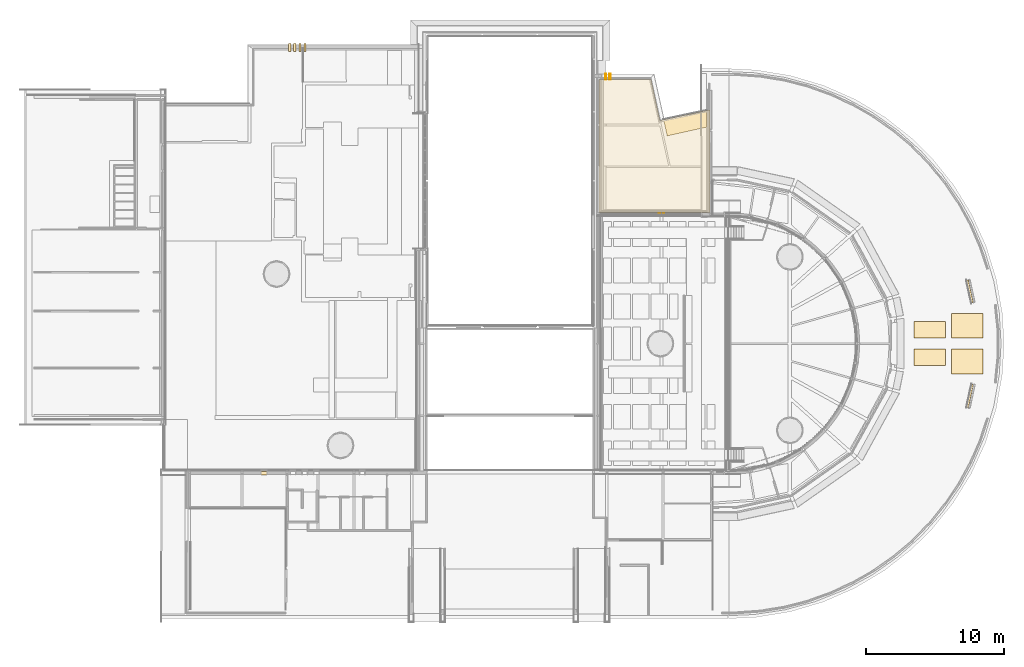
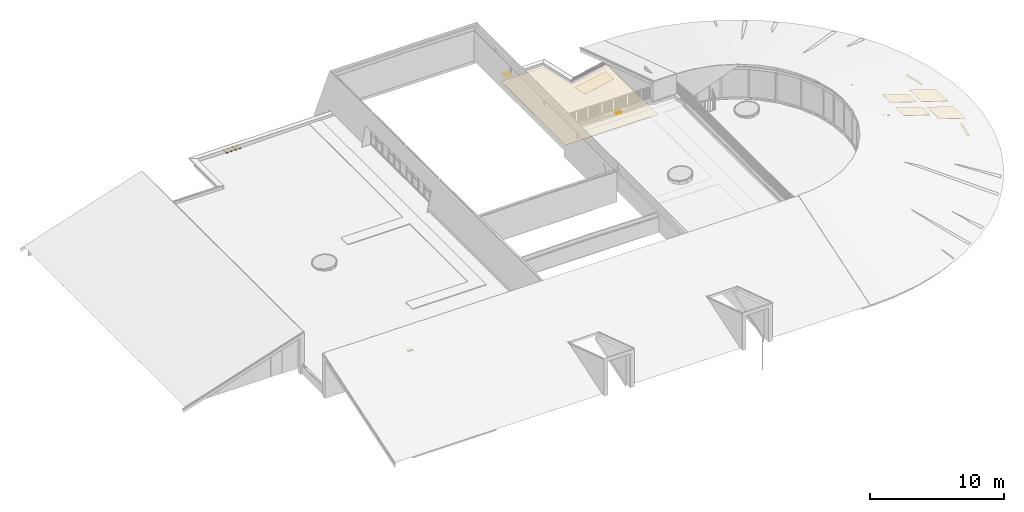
# One storey, part 60 of 66: 8 coverings, 8 openings.
"""IFC2X3 building model written with IfcOpenShell, lengths in millimetres."""

import ifcopenshell
import ifcopenshell.guid

model = None  # the IFC model being written
_history = None  # IfcOwnerHistory: only IFC2X3 demands one
_inside = {}  # id of a spatial element -> (the spatial element, [elements in it])
_under = {}  # id of a project, library or spatial element -> (it, [spatial elements below it])
_declared = {}  # id of a project -> (the project, [libraries it declares])
_typed = {}  # id of a type object -> (the type object, [elements of that type])
_made_of = {}  # id of a material, layer set ... -> (it, [elements and type objects made of it])


def new_model(schema):
    """Start an empty IFC model of exactly this schema.

    Asked for "IFC4X3", IfcOpenShell would pick the latest addendum, in which some entities
    have other attributes; the version numbers below select the first issue.
    IFC2X3 requires an IfcOwnerHistory on every rooted entity: one is made here for all.
    """
    global model, _history
    if schema == "IFC4X3":
        model = ifcopenshell.file(schema_version=(4, 3, 0, 0))
    else:
        model = ifcopenshell.file(schema=schema)
    _inside.clear()
    _under.clear()
    _declared.clear()
    _typed.clear()
    _made_of.clear()
    _history = None
    if model.schema == "IFC2X3":
        org = make("IfcOrganization", Name="unknown")
        user = make(
            "IfcPersonAndOrganization",
            ThePerson=make("IfcPerson", FamilyName="unknown"),
            TheOrganization=org,
        )
        app = make(
            "IfcApplication",
            ApplicationDeveloper=org,
            Version="unknown",
            ApplicationFullName="unknown",
            ApplicationIdentifier="unknown",
        )
        _history = make(
            "IfcOwnerHistory",
            OwningUser=user,
            OwningApplication=app,
            ChangeAction="ADDED",
            CreationDate=0,
        )
    return model


def make(cls, **values):
    """One entity of the class cls with the attributes given. An attribute that is None is left unset."""
    return model.create_entity(
        cls, **{name: value for name, value in values.items() if value is not None}
    )


def entity(cls, *values):
    """Any entity or typed value of the class cls, its attributes in the order of the schema. None: left unset."""
    e = model.create_entity(cls)
    for i, value in enumerate(values):
        if value is not None:
            e[i] = value
    return e


def rooted(cls, **values):
    """An entity with a GlobalId (a new one), such as an element, a storey or a relation."""
    return make(cls, GlobalId=ifcopenshell.guid.new(), OwnerHistory=_history, **values)


def si_unit(unit_type, name, prefix=None):
    """IfcSIUnit, for example si_unit("LENGTHUNIT", "METRE", prefix="MILLI")."""
    return make("IfcSIUnit", UnitType=unit_type, Prefix=prefix, Name=name)


def converted_unit(unit_type, name, factor, base, dimensions=None, offset=None):
    """IfcConversionBasedUnit, such as the inch: factor (a typed value) times the base unit."""
    return make(
        "IfcConversionBasedUnit"
        if offset is None
        else "IfcConversionBasedUnitWithOffset",
        ConversionOffset=offset,
        Dimensions=None
        if dimensions is None
        else entity("IfcDimensionalExponents", *dimensions),
        UnitType=unit_type,
        Name=name,
        ConversionFactor=make(
            "IfcMeasureWithUnit", ValueComponent=factor, UnitComponent=base
        ),
    )


def derived_unit(unit_type, elements):
    """IfcDerivedUnit: a product of units, each with its exponent."""
    return make(
        "IfcDerivedUnit",
        Elements=[
            make("IfcDerivedUnitElement", Unit=unit, Exponent=power)
            for unit, power in elements
        ],
        UnitType=unit_type,
    )


def assignment(units):
    """IfcUnitAssignment: the units of a project."""
    return None if units is None else make("IfcUnitAssignment", Units=units)


def point(xyz):
    """IfcCartesianPoint."""
    return None if xyz is None else make("IfcCartesianPoint", Coordinates=xyz)


def direction(xyz):
    """IfcDirection."""
    return None if xyz is None else make("IfcDirection", DirectionRatios=xyz)


def frame(location, z_axis=None, x_axis=None):
    """IfcAxis2Placement3D, a coordinate frame: its origin and axes. An axis left out is left unset."""
    return make(
        "IfcAxis2Placement3D",
        Location=point(location),
        Axis=direction(z_axis),
        RefDirection=direction(x_axis),
    )


def frame_2d(location, x_axis=None):
    """IfcAxis2Placement2D, a coordinate frame in the plane: its origin and x axis."""
    return make(
        "IfcAxis2Placement2D", Location=point(location), RefDirection=direction(x_axis)
    )


def origin():
    """The frame at (0, 0, 0) with its axes left unset."""
    return frame((0.0, 0.0, 0.0))


def place(relative_to, where):
    """IfcLocalPlacement: puts the frame where relative to a parent placement (None: the world)."""
    return make(
        "IfcLocalPlacement", PlacementRelTo=relative_to, RelativePlacement=where
    )


def context(
    kind, dimensions, precision=None, world=None, true_north=None, identifier=None
):
    """IfcGeometricRepresentationContext, for example the 3D "Model" context."""
    return make(
        "IfcGeometricRepresentationContext",
        ContextIdentifier=identifier,
        ContextType=kind,
        CoordinateSpaceDimension=dimensions,
        Precision=precision,
        WorldCoordinateSystem=world,
        TrueNorth=true_north,
    )


def subcontext(parent, identifier, kind, view, scale=None):
    """IfcGeometricRepresentationSubContext, for example "Body" below "Model"."""
    return make(
        "IfcGeometricRepresentationSubContext",
        ContextIdentifier=identifier,
        ContextType=kind,
        ParentContext=parent,
        TargetScale=scale,
        TargetView=view,
    )


def project(units=None, contexts=None):
    """IfcProject with its units and contexts."""
    return rooted(
        "IfcProject",
        Name="project",
        RepresentationContexts=contexts,
        UnitsInContext=assignment(units),
    )


def spatial(cls, under=None, at=None, **own):
    """A site, building, storey or space (cls), placed at a placement, below another one or the project."""
    s = rooted(cls, ObjectPlacement=at, **own)
    if under is not None:
        _under.setdefault(under.id(), (under, []))[1].append(s)
    return s


def polyline(points):
    """IfcPolyline through the points."""
    return make("IfcPolyline", Points=[point(p) for p in points])


def profile(cls, at=None, kind="AREA", **sizes):
    """A parametric profile (cls). Its sizes go by their IFC names, for example OverallWidth=200.0."""
    return make(cls, ProfileType=kind, Position=at, **sizes)


def rectangle(**sizes):
    """IfcRectangleProfileDef."""
    return profile("IfcRectangleProfileDef", **sizes)


def outline(outer, holes=None, kind="AREA"):
    """IfcArbitraryClosedProfileDef: a profile drawn as a closed curve; with holes, ...WithVoids."""
    if holes is None:
        return make("IfcArbitraryClosedProfileDef", ProfileType=kind, OuterCurve=outer)
    return make(
        "IfcArbitraryProfileDefWithVoids",
        ProfileType=kind,
        OuterCurve=outer,
        InnerCurves=holes,
    )


def extrude(swept, where, along, depth):
    """IfcExtrudedAreaSolid: the profile swept, set in the frame where, extruded along a direction by depth."""
    return make(
        "IfcExtrudedAreaSolid",
        SweptArea=swept,
        Position=where,
        ExtrudedDirection=direction(along),
        Depth=depth,
    )


def shape(context_of_items, identifier, shape_type, items):
    """IfcShapeRepresentation: the items that make up one representation, for example the "Body"."""
    return make(
        "IfcShapeRepresentation",
        ContextOfItems=context_of_items,
        RepresentationIdentifier=identifier,
        RepresentationType=shape_type,
        Items=items,
    )


def material(Name=None, Category=None):
    """IfcMaterial."""
    return make("IfcMaterial", Name=Name, Category=Category)


def layer(
    of_material, thickness, ventilated=None, Name=None, Category=None, Priority=None
):
    """IfcMaterialLayer: one layer of a wall or slab, of a material (None: an air gap)."""
    return make(
        "IfcMaterialLayer",
        Material=of_material,
        LayerThickness=thickness,
        IsVentilated=ventilated,
        Name=Name,
        Category=Category,
        Priority=Priority,
    )


def layer_set(layers, Name=None):
    """IfcMaterialLayerSet."""
    return make("IfcMaterialLayerSet", MaterialLayers=layers, LayerSetName=Name)


def layer_usage(for_layer_set, set_direction, sense, offset, extent=None):
    """IfcMaterialLayerSetUsage: how a layer set lies in its element."""
    return make(
        "IfcMaterialLayerSetUsage",
        ForLayerSet=for_layer_set,
        LayerSetDirection=set_direction,
        DirectionSense=sense,
        OffsetFromReferenceLine=offset,
        ReferenceExtent=extent,
    )


def made_of(thing, what):
    """Note that an element or type object is made of a material, layer set ...; save() writes the relation."""
    if what is not None:
        _made_of.setdefault(what.id(), (what, []))[1].append(thing)
    return thing


def type_object(cls, material=None, **own):
    """A type object (cls), such as IfcWallType, which elements share."""
    return made_of(rooted(cls, **own), material)


def element(
    cls,
    number,
    at=None,
    inside=None,
    cuts=None,
    type_object=None,
    material=None,
    context=None,
    identifier="Body",
    shape_type=None,
    held_by="IfcProductDefinitionShape",
    body=None,
    shapes=None,
    **own,
):
    """One element of the class cls, such as IfcWall. Its Tag is "e" and its number.

    at: its placement. inside: the storey or other place that contains it. cuts: it is an
    opening in that element (IfcRelVoidsElement). A single representation is given by context,
    identifier, shape_type and body (its items); several are given by shapes. held_by: the class
    of the entity that holds the representations. save() writes the other relations.
    """
    e = rooted(cls, Tag="e%d" % number, ObjectPlacement=at, **own)
    if body is not None:
        shapes = [shape(context, identifier, shape_type, body)]
    if shapes is not None:
        e.Representation = make(held_by, Representations=shapes)
    if inside is not None:
        _inside.setdefault(inside.id(), (inside, []))[1].append(e)
    if cuts is not None:
        rooted(
            "IfcRelVoidsElement", RelatingBuildingElement=cuts, RelatedOpeningElement=e
        )
    if type_object is not None:
        _typed.setdefault(type_object.id(), (type_object, []))[1].append(e)
    return made_of(e, material)


def aggregate(whole, parts):
    """IfcRelAggregates: a whole, such as a stair, and the parts it consists of."""
    return rooted("IfcRelAggregates", RelatingObject=whole, RelatedObjects=parts)


def save(model, path):
    """Write the relations noted so far, then the file.

    IfcRelAggregates (storeys below a building ...), IfcRelContainedInSpatialStructure (elements
    in a storey), IfcRelDefinesByType, IfcRelAssociatesMaterial and IfcRelDeclares: one each for
    every whole, place, type object, material and project.
    """
    for whole, parts in _under.values():
        aggregate(whole, parts)
    for where, things in _inside.values():
        rooted(
            "IfcRelContainedInSpatialStructure",
            RelatedElements=things,
            RelatingStructure=where,
        )
    for kind, things in _typed.values():
        rooted("IfcRelDefinesByType", RelatedObjects=things, RelatingType=kind)
    for what, things in _made_of.values():
        rooted("IfcRelAssociatesMaterial", RelatedObjects=things, RelatingMaterial=what)
    for by, libraries in _declared.values():
        rooted("IfcRelDeclares", RelatingContext=by, RelatedDefinitions=libraries)
    model.write(path)


model = new_model("IFC2X3")

# Units and contexts
model_context = context("Model", 3, precision=0.01, world=origin(), true_north=direction((6.12303176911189e-17, 1.0)))
body_context = subcontext(model_context, "Body", "Model", "MODEL_VIEW")
ifc_project = project(units=[si_unit("LENGTHUNIT", "METRE", prefix="MILLI"), si_unit("AREAUNIT", "SQUARE_METRE"), si_unit("VOLUMEUNIT", "CUBIC_METRE"), converted_unit("PLANEANGLEUNIT", "DEGREE", entity("IfcRatioMeasure", 0.0174532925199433), si_unit("PLANEANGLEUNIT", "RADIAN"), dimensions=[0, 0, 0, 0, 0, 0, 0]), si_unit("MASSUNIT", "GRAM", prefix="KILO"), derived_unit("MASSDENSITYUNIT", [(si_unit("MASSUNIT", "GRAM", prefix="KILO"), 1), (si_unit("LENGTHUNIT", "METRE"), -3)]), derived_unit("MOMENTOFINERTIAUNIT", [(si_unit("LENGTHUNIT", "METRE"), 4)]), si_unit("TIMEUNIT", "SECOND"), si_unit("FREQUENCYUNIT", "HERTZ"), si_unit("THERMODYNAMICTEMPERATUREUNIT", "DEGREE_CELSIUS"), derived_unit("THERMALTRANSMITTANCEUNIT", [(si_unit("MASSUNIT", "GRAM", prefix="KILO"), 1), (si_unit("THERMODYNAMICTEMPERATUREUNIT", "KELVIN"), -1), (si_unit("TIMEUNIT", "SECOND"), -3)]), derived_unit("VOLUMETRICFLOWRATEUNIT", [(si_unit("LENGTHUNIT", "METRE"), 3), (si_unit("TIMEUNIT", "SECOND"), -1)]), si_unit("ELECTRICCURRENTUNIT", "AMPERE"), si_unit("ELECTRICVOLTAGEUNIT", "VOLT"), si_unit("POWERUNIT", "WATT"), si_unit("FORCEUNIT", "NEWTON", prefix="KILO"), si_unit("ILLUMINANCEUNIT", "LUX"), si_unit("LUMINOUSFLUXUNIT", "LUMEN"), si_unit("LUMINOUSINTENSITYUNIT", "CANDELA"), derived_unit("USERDEFINED", [(si_unit("MASSUNIT", "GRAM", prefix="KILO"), -1), (si_unit("LENGTHUNIT", "METRE"), -2), (si_unit("TIMEUNIT", "SECOND"), 3), (si_unit("LUMINOUSFLUXUNIT", "LUMEN"), 1)]), derived_unit("LINEARVELOCITYUNIT", [(si_unit("LENGTHUNIT", "METRE"), 1), (si_unit("TIMEUNIT", "SECOND"), -1)]), si_unit("PRESSUREUNIT", "PASCAL"), derived_unit("USERDEFINED", [(si_unit("LENGTHUNIT", "METRE"), -2), (si_unit("MASSUNIT", "GRAM", prefix="KILO"), 1), (si_unit("TIMEUNIT", "SECOND"), -2)]), derived_unit("LINEARFORCEUNIT", [(si_unit("MASSUNIT", "GRAM", prefix="KILO"), 1), (si_unit("LENGTHUNIT", "METRE"), 1), (si_unit("TIMEUNIT", "SECOND"), -2), (si_unit("LENGTHUNIT", "METRE"), -1)]), derived_unit("PLANARFORCEUNIT", [(si_unit("MASSUNIT", "GRAM", prefix="KILO"), 1), (si_unit("LENGTHUNIT", "METRE"), 1), (si_unit("TIMEUNIT", "SECOND"), -2), (si_unit("LENGTHUNIT", "METRE"), -2)])], contexts=[model_context])

# Site, building, storey
site_placement = place(None, origin())
site = spatial("IfcSite", under=ifc_project, at=site_placement, Name="Default", CompositionType="ELEMENT")
building_placement = place(site_placement, origin())
building = spatial("IfcBuilding", under=site, at=building_placement, Name="-", CompositionType="ELEMENT")
storey_placement = place(building_placement, frame((0.0, 0.0, 3070.0)))
storey = spatial("IfcBuildingStorey", under=building, at=storey_placement, Name="01 eerste verdieping", CompositionType="ELEMENT", Elevation=3070.00000000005)

# Coverings
ifc_material_1 = material(Name="NLRS_m1_systeemplafond 600x600mm")
covering_type_1 = type_object("IfcCoveringType", Name="Akoestische panelen 4:Akoestische panelen 2", PredefinedType="NOTDEFINED")
covering_1_placement = place(storey_placement, origin())
element("IfcCovering", 1, at=covering_1_placement, inside=storey, type_object=covering_type_1, material=ifc_material_1, Name="Akoestische panelen 4:Akoestische panelen 2", ObjectType="Akoestische panelen 4:Akoestische panelen 2", PredefinedType="NOTDEFINED", context=body_context, shape_type="SweptSolid", body=[
    extrude(rectangle(XDim=2399.99999999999, YDim=1800.0, at=frame_2d((-4.54747350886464e-12, -4.32009983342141e-12), x_axis=(1.0, 0.0))), frame((67892.2609858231, 18319.719880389, 273.538238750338), z_axis=(0.309016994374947, 0.0, 0.951056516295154), x_axis=(-0.951056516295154, 0.0, 0.309016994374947)), (0.0, 0.0, 1.0), 25.0000000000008),
    extrude(rectangle(XDim=2400.0, YDim=1200.0, at=frame_2d((0.0, -2.1600499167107e-12), x_axis=(1.0, 0.0))), frame((65191.2604795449, 18619.719880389, 1151.14650277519), z_axis=(0.309016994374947, 0.0, 0.951056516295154), x_axis=(-0.951056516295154, 0.0, 0.309016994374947)), (0.0, 0.0, 1.0), 25.0000000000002),
    extrude(rectangle(XDim=2400.0, YDim=1200.0, at=frame_2d((-2.1600499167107e-12, 0.0), x_axis=(0.0, 1.0))), frame((65191.2604795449, 20612.3995775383, 1151.1465027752), z_axis=(0.309016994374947, 0.0, 0.951056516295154), x_axis=(0.0, 1.0, 0.0)), (0.0, 0.0, 1.0), 25.0000000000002),
    extrude(rectangle(XDim=2399.99999999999, YDim=1800.0, at=frame_2d((-4.32009983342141e-12, 4.54747350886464e-12), x_axis=(0.0, 1.0))), frame((67892.2609858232, 20912.3995775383, 273.538238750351), z_axis=(0.309016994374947, 0.0, 0.951056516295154), x_axis=(0.0, 1.0, 0.0)), (0.0, 0.0, 1.0), 25.0000000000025),
])
ifc_material_2 = material(Name="n6_kunststof_RAL 7035")
ifc_layer_1 = layer(ifc_material_2, 10.0)
ifc_layer_set_1 = layer_set([ifc_layer_1], Name="Floor:NLRS_44_Plaat 10 mm RAL 7035")
ifc_layer_usage_1 = layer_usage(ifc_layer_set_1, "AXIS3", "POSITIVE", 0.0)
covering_type_2 = type_object("IfcCoveringType", Name="Floor:NLRS_44_Plaat 10 mm RAL 7035", PredefinedType="FLOORING", material=ifc_layer_set_1)
covering_2_placement = place(storey_placement, origin())
element("IfcCovering", 2, at=covering_2_placement, inside=storey, type_object=covering_type_2, material=ifc_layer_usage_1, Name="Floor:NLRS_44_Plaat 10 mm RAL 7035", ObjectType="Floor:NLRS_44_Plaat 10 mm RAL 7035", PredefinedType="FLOORING", context=body_context, shape_type="SweptSolid", body=[
    extrude(outline(polyline([(-937.183267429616, -1495.4320915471), (284.301170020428, -1495.4320915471), (919.096153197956, 1363.67594883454), (-266.214055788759, 1627.18823425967), (-937.183267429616, -1495.4320915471)])), frame((47534.4578351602, 35587.3935376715, -350.0), z_axis=(0.0, 0.0, -1.0), x_axis=(0.0, -1.0, 0.0)), (0.0, 0.0, 1.0), 9.99999999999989),
])
ifc_material_3 = material(Name="NLRS_i4_hout_multiplex")
ifc_layer_2 = layer(ifc_material_3, 18.0)
ifc_layer_set_2 = layer_set([ifc_layer_2], Name="Floor:NLRS_44_FL_Multiplex 18mm")
ifc_layer_usage_2 = layer_usage(ifc_layer_set_2, "AXIS3", "POSITIVE", 0.0)
covering_type_3 = type_object("IfcCoveringType", Name="Floor:NLRS_44_FL_Multiplex 18mm", PredefinedType="FLOORING", material=ifc_layer_set_2)
covering_3_placement = place(storey_placement, origin())
element("IfcCovering", 3, at=covering_3_placement, inside=storey, type_object=covering_type_3, material=ifc_layer_usage_2, Name="Floor:NLRS_44_FL_Multiplex 18mm", ObjectType="Floor:NLRS_44_FL_Multiplex 18mm", PredefinedType="FLOORING", context=body_context, shape_type="SweptSolid", body=[
    extrude(outline(polyline([(-5558.49198924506, -4034.13086570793), (4075.87118145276, -4034.13086570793), (4075.87118145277, -278.032610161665), (1090.99380402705, 367.448913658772), (1874.24781155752, 3989.42271395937), (-5558.49198924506, 3989.42271395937), (-5558.49198924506, -4034.13086570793)])), frame((45280.1976761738, 34683.1987716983, 100.0), z_axis=(0.0, 0.0, -1.0), x_axis=(0.0, 1.0, 0.0)), (0.0, 0.0, 1.0), 18.0000000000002),
])
ifc_material_4 = material(Name="ZZ_00_Kleur_RAL 9002")
ifc_layer_3 = layer(ifc_material_4, 10.0)
ifc_layer_set_3 = layer_set([ifc_layer_3], Name="Floor:NLRS_44_Plaat 10 mm RAL 9002")
ifc_layer_usage_3 = layer_usage(ifc_layer_set_3, "AXIS3", "POSITIVE", 0.0)
covering_type_4 = type_object("IfcCoveringType", Name="Floor:NLRS_44_Plaat 10 mm RAL 9002", PredefinedType="FLOORING", material=ifc_layer_set_3)
covering_4_placement = place(storey_placement, origin())
element("IfcCovering", 4, at=covering_4_placement, inside=storey, type_object=covering_type_4, material=ifc_layer_usage_3, Name="Floor:NLRS_44_Plaat 10 mm RAL 9002", ObjectType="Floor:NLRS_44_Plaat 10 mm RAL 9002", PredefinedType="FLOORING", context=body_context, shape_type="SweptSolid", body=[
    extrude(rectangle(XDim=1664.37670537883, YDim=193.707581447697, at=frame_2d((-2.38742359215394e-12, -9.37916411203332e-12), x_axis=(1.0, 0.0))), frame((68068.2910060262, 23393.4839527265, 190.0), z_axis=(0.0, 0.0, -1.0), x_axis=(0.215826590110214, -0.976431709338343, 0.0)), (0.0, 0.0, 1.0), 9.99999999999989),
])
ifc_layer_usage_4 = layer_usage(ifc_layer_set_3, "AXIS3", "POSITIVE", 0.0)
covering_type_5 = type_object("IfcCoveringType", Name="Floor:NLRS_44_Plaat 10 mm RAL 9002", PredefinedType="FLOORING", material=ifc_layer_set_3)
covering_5_placement = place(storey_placement, origin())
element("IfcCovering", 5, at=covering_5_placement, inside=storey, type_object=covering_type_5, material=ifc_layer_usage_4, Name="Floor:NLRS_44_Plaat 10 mm RAL 9002", ObjectType="Floor:NLRS_44_Plaat 10 mm RAL 9002", PredefinedType="FLOORING", context=body_context, shape_type="SweptSolid", body=[
    extrude(rectangle(XDim=186.999999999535, YDim=1676.31992263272, at=frame_2d((-2.34479102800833e-13, -1.02318153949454e-12), x_axis=(1.0, 0.0))), frame((68080.0498938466, 15834.9583206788, 190.0), z_axis=(0.0, 0.0, -1.0), x_axis=(0.977360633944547, -0.211580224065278, 0.0)), (0.0, 0.0, 1.0), 9.99999999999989),
])
ifc_material_5 = material(Name="AL_Multiplex RAL 9002")
ifc_layer_4 = layer(ifc_material_5, 18.0)
ifc_layer_set_4 = layer_set([ifc_layer_4], Name="Floor:NLRS_44_Plaat 18 mm RAL 9002")
ifc_layer_usage_5 = layer_usage(ifc_layer_set_4, "AXIS3", "POSITIVE", 0.0)
covering_type_6 = type_object("IfcCoveringType", Name="Floor:NLRS_44_Plaat 18 mm RAL 9002", PredefinedType="FLOORING", material=ifc_layer_set_4)
covering_6_placement = place(storey_placement, origin())
element("IfcCovering", 6, at=covering_6_placement, inside=storey, type_object=covering_type_6, material=ifc_layer_usage_5, Name="Floor:NLRS_44_Plaat 18 mm RAL 9002", ObjectType="Floor:NLRS_44_Plaat 18 mm RAL 9002", PredefinedType="FLOORING", context=body_context, shape_type="SweptSolid", body=[
    extrude(rectangle(XDim=247.000000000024, YDim=414.000000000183, at=frame_2d((1.08002495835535e-12, 0.0), x_axis=(1.0, 0.0))), frame((16965.0, 10233.6240954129, 1377.0), z_axis=(0.0, 0.0, -1.0), x_axis=(0.0, 1.0, 0.0)), (0.0, 0.0, 1.0), 18.0000000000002),
])

# Covering, openings
covering_type_7 = type_object("IfcCoveringType", Name="Noodoverstort:Noodoverstort", PredefinedType="NOTDEFINED")
covering_7_placement = place(storey_placement, origin())
covering_7 = element("IfcCovering", 7, at=covering_7_placement, inside=storey, type_object=covering_type_7, Name="Noodoverstort:Noodoverstort", ObjectType="Noodoverstort:Noodoverstort", PredefinedType="NOTDEFINED", context=body_context, shape_type="SweptSolid", body=[
    extrude(rectangle(XDim=565.296806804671, YDim=160.000000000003, at=frame_2d((-4.32009983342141e-12, -2.16715534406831e-12), x_axis=(1.0, 0.0))), frame((19938.0, 41071.4025595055, 148.000767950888), z_axis=(0.0, 0.0, 1.0), x_axis=(0.0, 1.0, 0.0)), (0.0, 0.0, 1.0), 59.9999999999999),
    extrude(rectangle(XDim=565.296806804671, YDim=160.0, at=frame_2d((-4.32009983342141e-12, 1.08713038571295e-12), x_axis=(1.0, 0.0))), frame((18828.0, 41071.4025595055, 148.000767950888), z_axis=(0.0, 0.0, 1.0), x_axis=(0.0, 1.0, 0.0)), (0.0, 0.0, 1.0), 59.9999999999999),
    extrude(rectangle(XDim=565.296806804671, YDim=160.0, at=frame_2d((-4.32009983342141e-12, 1.08713038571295e-12), x_axis=(1.0, 0.0))), frame((19198.0, 41071.4025595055, 148.000767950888), z_axis=(0.0, 0.0, 1.0), x_axis=(0.0, 1.0, 0.0)), (0.0, 0.0, 1.0), 59.9999999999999),
    extrude(rectangle(XDim=565.296806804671, YDim=160.000000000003, at=frame_2d((-4.32009983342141e-12, -2.16715534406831e-12), x_axis=(1.0, 0.0))), frame((19568.0, 41071.4025595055, 148.000767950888), z_axis=(0.0, 0.0, 1.0), x_axis=(0.0, 1.0, 0.0)), (0.0, 0.0, 1.0), 59.9999999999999),
])
opening_1_placement = place(storey_placement, origin())
element("IfcOpeningElement", 8, at=opening_1_placement, cuts=covering_7, Name="Noodoverstort:Noodoverstort:1", ObjectType="Opening", context=body_context, shape_type="SweptSolid", body=[
    extrude(rectangle(XDim=55.9999999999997, YDim=156.000000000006, at=frame_2d((-2.70006239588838e-13, -1.08002495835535e-12), x_axis=(1.0, 0.0))), frame((19568.0, 40788.7541561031, 178.000767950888), z_axis=(0.0, 1.0, 0.0), x_axis=(0.0, 0.0, -1.0)), (0.0, 0.0, 1.0), 565.296806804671),
])
opening_2_placement = place(storey_placement, origin())
element("IfcOpeningElement", 9, at=opening_2_placement, cuts=covering_7, Name="Noodoverstort:Noodoverstort:2", ObjectType="Opening", context=body_context, shape_type="SweptSolid", body=[
    extrude(rectangle(XDim=55.9999999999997, YDim=156.000000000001, at=frame_2d((1.08713038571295e-12, -2.70006239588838e-13), x_axis=(0.0, 1.0))), frame((19198.0, 41354.0509629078, 178.000767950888), z_axis=(0.0, -1.0, 0.0), x_axis=(-1.0, 0.0, 0.0)), (0.0, 0.0, 1.0), 565.296806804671),
])
opening_3_placement = place(storey_placement, origin())
element("IfcOpeningElement", 10, at=opening_3_placement, cuts=covering_7, Name="Noodoverstort:Noodoverstort:3", ObjectType="Opening", context=body_context, shape_type="SweptSolid", body=[
    extrude(rectangle(XDim=55.9999999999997, YDim=156.000000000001, at=frame_2d((-1.08713038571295e-12, -2.70006239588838e-13), x_axis=(0.0, 1.0))), frame((18828.0, 41354.0509629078, 178.000767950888), z_axis=(0.0, -1.0, 0.0), x_axis=(-1.0, 0.0, 0.0)), (0.0, 0.0, 1.0), 565.296806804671),
])
opening_4_placement = place(storey_placement, origin())
element("IfcOpeningElement", 11, at=opening_4_placement, cuts=covering_7, Name="Noodoverstort:Noodoverstort:4", ObjectType="Opening", context=body_context, shape_type="SweptSolid", body=[
    extrude(rectangle(XDim=55.9999999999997, YDim=156.000000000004, at=frame_2d((2.16715534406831e-12, -2.70006239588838e-13), x_axis=(0.0, 1.0))), frame((19938.0, 41354.0509629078, 178.000767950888), z_axis=(0.0, -1.0, 0.0), x_axis=(-1.0, 0.0, 0.0)), (0.0, 0.0, 1.0), 565.296806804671),
])

covering_type_8 = type_object("IfcCoveringType", Name="Noodoverstort1:Noodoverstort", PredefinedType="NOTDEFINED")
covering_8_placement = place(storey_placement, origin())
covering_8 = element("IfcCovering", 12, at=covering_8_placement, inside=storey, type_object=covering_type_8, Name="Noodoverstort1:Noodoverstort", ObjectType="Noodoverstort1:Noodoverstort", PredefinedType="NOTDEFINED", context=body_context, shape_type="SweptSolid", body=[
    extrude(rectangle(XDim=306.426263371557, YDim=99.9999999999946, at=frame_2d((2.1600499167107e-12, 0.0), x_axis=(1.0, 0.0))), frame((45609.4305574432, 29042.7084942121, 1548.83906392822), z_axis=(0.0, 0.0, 1.0), x_axis=(0.0, 1.0, 0.0)), (0.0, 0.0, 1.0), 59.9999999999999),
    extrude(rectangle(XDim=306.426263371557, YDim=99.9999999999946, at=frame_2d((2.1600499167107e-12, 0.0), x_axis=(1.0, 0.0))), frame((45919.4305574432, 29042.7084942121, 1548.83906392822), z_axis=(0.0, 0.0, 1.0), x_axis=(0.0, 1.0, 0.0)), (0.0, 0.0, 1.0), 59.9999999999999),
    extrude(rectangle(XDim=423.197116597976, YDim=99.9999999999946, at=frame_2d((-4.32009983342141e-12, 0.0), x_axis=(1.0, 0.0))), frame((42027.9313848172, 38942.1685114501, 314.514161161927), z_axis=(0.0, 0.0, 1.0), x_axis=(0.0, 1.0, 0.0)), (0.0, 0.0, 1.0), 59.9999999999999),
    extrude(rectangle(XDim=423.197116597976, YDim=99.9999999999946, at=frame_2d((-4.32009983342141e-12, 0.0), x_axis=(1.0, 0.0))), frame((41717.9313848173, 38942.1685114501, 314.514161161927), z_axis=(0.0, 0.0, 1.0), x_axis=(0.0, 1.0, 0.0)), (0.0, 0.0, 1.0), 59.9999999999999),
])
opening_5_placement = place(storey_placement, origin())
element("IfcOpeningElement", 13, at=opening_5_placement, cuts=covering_8, Name="Noodoverstort1:Noodoverstort:1", ObjectType="Opening", context=body_context, shape_type="SweptSolid", body=[
    extrude(rectangle(XDim=55.9999999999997, YDim=95.9999999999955, at=frame_2d((-2.70006239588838e-13, 0.0), x_axis=(1.0, 0.0))), frame((41717.9313848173, 38730.5699531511, 344.514161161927), z_axis=(0.0, 1.0, 0.0), x_axis=(0.0, 0.0, -1.0)), (0.0, 0.0, 1.0), 423.197116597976),
])
opening_6_placement = place(storey_placement, origin())
element("IfcOpeningElement", 14, at=opening_6_placement, cuts=covering_8, Name="Noodoverstort1:Noodoverstort:2", ObjectType="Opening", context=body_context, shape_type="SweptSolid", body=[
    extrude(rectangle(XDim=55.9999999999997, YDim=95.9999999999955, at=frame_2d((-2.70006239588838e-13, 0.0), x_axis=(1.0, 0.0))), frame((42027.9313848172, 38730.5699531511, 344.514161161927), z_axis=(0.0, 1.0, 0.0), x_axis=(0.0, 0.0, -1.0)), (0.0, 0.0, 1.0), 423.197116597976),
])
opening_7_placement = place(storey_placement, origin())
element("IfcOpeningElement", 15, at=opening_7_placement, cuts=covering_8, Name="Noodoverstort1:Noodoverstort:3", ObjectType="Opening", context=body_context, shape_type="SweptSolid", body=[
    extrude(rectangle(XDim=55.9999999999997, YDim=95.9999999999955, at=frame_2d((-2.70006239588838e-13, 0.0), x_axis=(1.0, 0.0))), frame((45919.4305574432, 28889.4953625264, 1578.83906392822), z_axis=(0.0, 1.0, 0.0), x_axis=(0.0, 0.0, -1.0)), (0.0, 0.0, 1.0), 306.426263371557),
])
opening_8_placement = place(storey_placement, origin())
element("IfcOpeningElement", 16, at=opening_8_placement, cuts=covering_8, Name="Noodoverstort1:Noodoverstort:4", ObjectType="Opening", context=body_context, shape_type="SweptSolid", body=[
    extrude(rectangle(XDim=55.9999999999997, YDim=95.9999999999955, at=frame_2d((0.0, 2.70006239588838e-13), x_axis=(0.0, 1.0))), frame((45609.4305574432, 29195.9216258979, 1578.83906392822), z_axis=(0.0, -1.0, 0.0), x_axis=(-1.0, 0.0, 0.0)), (0.0, 0.0, 1.0), 306.426263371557),
])

save(model, "model.ifc")
